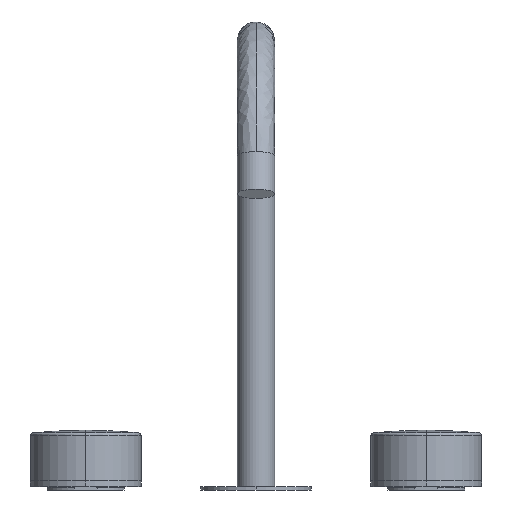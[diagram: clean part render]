
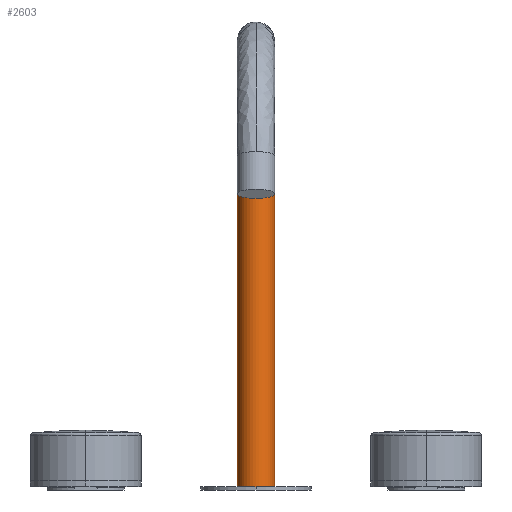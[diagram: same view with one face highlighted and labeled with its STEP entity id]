
A CAD part, front view. The second image highlights one B-rep face of the part: STEP entity #2603.
In plain terms, the highlighted cylindrical face has radius 11 mm (diameter 22 mm), a partial arc.
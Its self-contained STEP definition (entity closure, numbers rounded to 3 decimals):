
#2562=CARTESIAN_POINT('',(0.,0.,174.));
#2563=DIRECTION('',(0.,0.,-1.0));
#2564=DIRECTION('',(0.,1.0,0.0));
#2565=AXIS2_PLACEMENT_3D('',#2562,#2563,#2564);
#2566=CYLINDRICAL_SURFACE('',#2565,11.0);
#2567=CARTESIAN_POINT('',(-11.0,0.0,174.0));
#2568=VERTEX_POINT('',#2567);
#2569=CARTESIAN_POINT('',(-11.0,0.0,2.0));
#2570=VERTEX_POINT('',#2569);
#2571=CARTESIAN_POINT('',(-11.0,0.0,174.0));
#2572=DIRECTION('',(0.0,0.0,-1.0));
#2573=VECTOR('',#2572,172.0);
#2574=LINE('',#2571,#2573);
#2575=EDGE_CURVE('',#2568,#2570,#2574,.T.);
#2576=ORIENTED_EDGE('',*,*,#2575,.T.);
#2577=CARTESIAN_POINT('',(11.0,0.0,2.0));
#2578=VERTEX_POINT('',#2577);
#2579=CARTESIAN_POINT('',(0.0,0.0,2.0));
#2580=DIRECTION('',(0.,0.,-1.0));
#2581=DIRECTION('',(1.0,0.,0.));
#2582=AXIS2_PLACEMENT_3D('',#2579,#2580,#2581);
#2583=CIRCLE('',#2582,11.0);
#2584=EDGE_CURVE('',#2578,#2570,#2583,.T.);
#2585=ORIENTED_EDGE('',*,*,#2584,.F.);
#2586=CARTESIAN_POINT('',(11.0,0.0,174.0));
#2587=VERTEX_POINT('',#2586);
#2588=CARTESIAN_POINT('',(11.0,0.0,174.0));
#2589=DIRECTION('',(0.0,0.0,-1.0));
#2590=VECTOR('',#2589,172.0);
#2591=LINE('',#2588,#2590);
#2592=EDGE_CURVE('',#2587,#2578,#2591,.T.);
#2593=ORIENTED_EDGE('',*,*,#2592,.F.);
#2594=CARTESIAN_POINT('',(0.0,0.,174.0));
#2595=DIRECTION('',(0.,0.,-1.0));
#2596=DIRECTION('',(1.0,0.,0.));
#2597=AXIS2_PLACEMENT_3D('',#2594,#2595,#2596);
#2598=CIRCLE('',#2597,11.0);
#2599=EDGE_CURVE('',#2587,#2568,#2598,.T.);
#2600=ORIENTED_EDGE('',*,*,#2599,.T.);
#2601=EDGE_LOOP('',(#2576,#2585,#2593,#2600));
#2602=FACE_OUTER_BOUND('',#2601,.T.);
#2603=ADVANCED_FACE('',(#2602),#2566,.T.);
